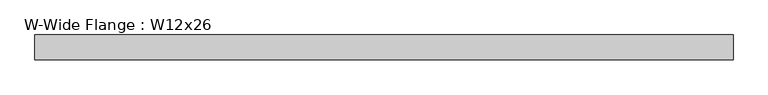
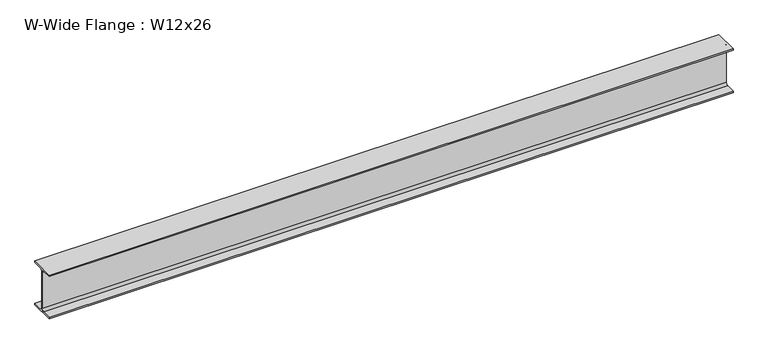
"""IFC4 building model written with IfcOpenShell, lengths in millimetres: beam geometry, W-Wide Flange : W12x26."""

from ifc_helpers import new_model, si_unit, point, frame, frame_2d, origin, place, context, project, spatial, polyline, circle_curve, trimmed, segment, composite_curve, outline, extrude, source, transform, mapped, element, save


def w_wide_flange_w12x26_d3ba76c9(model_context):
    return source(origin(), model_context, "Body", "SweptSolid", [
        extrude(outline(composite_curve([segment(polyline([(82.423, -145.288), (82.423, -154.94), (-82.423, -154.94), (-82.423, -145.288), (-20.2565, -145.288)]), True, "CONTINUOUS"), segment(trimmed(circle_curve(frame_2d((-20.2565, -127.9525)), 17.3355), [point((-20.2565, -145.288))], [point((-2.921, -127.9525))], True, "CARTESIAN"), True, "CONTINUOUS"), segment(polyline([(-2.921, -127.9525), (-2.921, 127.9525)]), True, "CONTINUOUS"), segment(trimmed(circle_curve(frame_2d((-20.2565, 127.9525)), 17.3355), [point((-2.921, 127.9525))], [point((-20.2565, 145.288))], True, "CARTESIAN"), True, "CONTINUOUS"), segment(polyline([(-20.2565, 145.288), (-82.423, 145.288), (-82.423, 154.94), (82.423, 154.94), (82.423, 145.288), (20.2565, 145.288)]), True, "CONTINUOUS"), segment(trimmed(circle_curve(frame_2d((20.2565, 127.9525)), 17.3355), [point((20.2565, 145.288))], [point((2.921, 127.9525))], True, "CARTESIAN"), True, "CONTINUOUS"), segment(polyline([(2.921, 127.9525), (2.921, -127.9525)]), True, "CONTINUOUS"), segment(trimmed(circle_curve(frame_2d((20.2565, -127.9525)), 17.3355), [point((2.921, -127.9525))], [point((20.2565, -145.288))], True, "CARTESIAN"), True, "CONTINUOUS"), segment(polyline([(20.2565, -145.288), (82.423, -145.288)]), True, "CONTINUOUS")], self_intersect=False)), frame((-2327.709235, 0.0, 0.0), z_axis=(1.0, 0.0, 0.0), x_axis=(0.0, 1.0, 0.0)), (0.0, 0.0, 1.0), 4593.463),
    ])


if __name__ == "__main__":
    model = new_model("IFC4")
    model_context = context("Model", 3, world=origin())
    ifc_project = project(units=[si_unit("LENGTHUNIT", "METRE", prefix="MILLI")], contexts=[model_context])
    site = spatial("IfcSite", under=ifc_project)
    building = spatial("IfcBuilding", under=site)
    placement = place(None, origin())
    w_wide_flange_w12x26_shape = w_wide_flange_w12x26_d3ba76c9(model_context)
    element("IfcBeam", 1, ObjectType="W-Wide Flange : W12x26", at=placement, inside=building, context=model_context, shape_type="MappedRepresentation", body=[
        mapped(w_wide_flange_w12x26_shape, transform((0.0, 0.0, 0.0), x_axis=(1.0, 0.0, 0.0), y_axis=(0.0, 1.0, 0.0), z_axis=(0.0, 0.0, 1.0))),
    ])
    save(model, "model.ifc")
